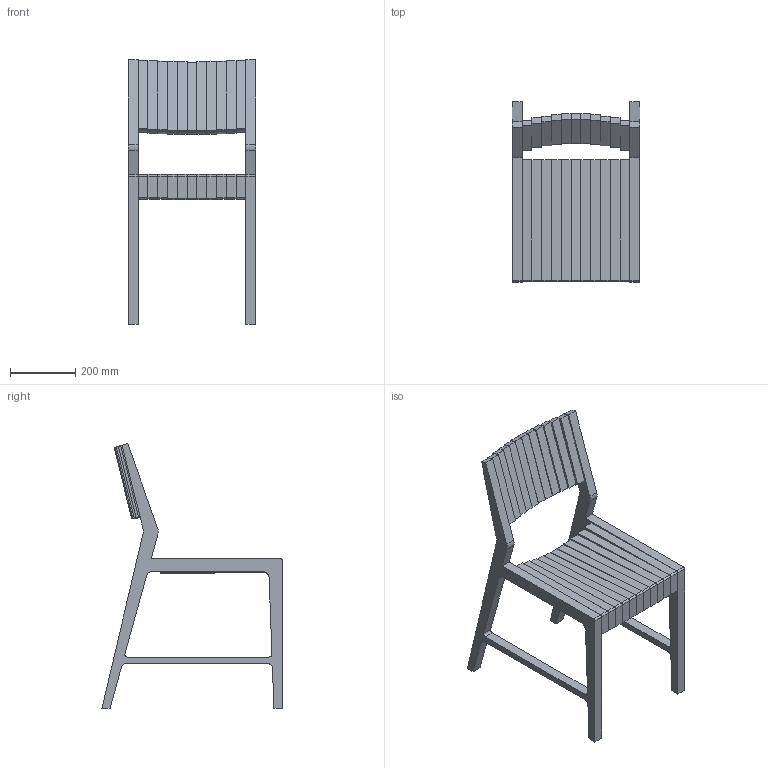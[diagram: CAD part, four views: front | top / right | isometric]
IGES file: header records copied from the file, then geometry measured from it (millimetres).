
Start section: Data from Parasolid IGES Translator 17.0.49, Copyright(c) 2006 Siemens P LM Software. All Rights Reserved.
Global section: file name: JET.igs; native system: By Siemens PLM Incorporated; preprocessor: XPlus GENERIC/IGES 17.0.49; author: Noname; organization: Noname; date: 20170605.171147; units: metre
Bounding box: 390 x 552.83 x 812.07 mm (x, y, z)
Volume: 10533965.2 mm3; surface area: 1404347.9 mm2
Topology: 24 solids, 24 shells, 230 faces, 546 edges, 364 vertices
Faces by surface type: plane 168, cylinder 62
